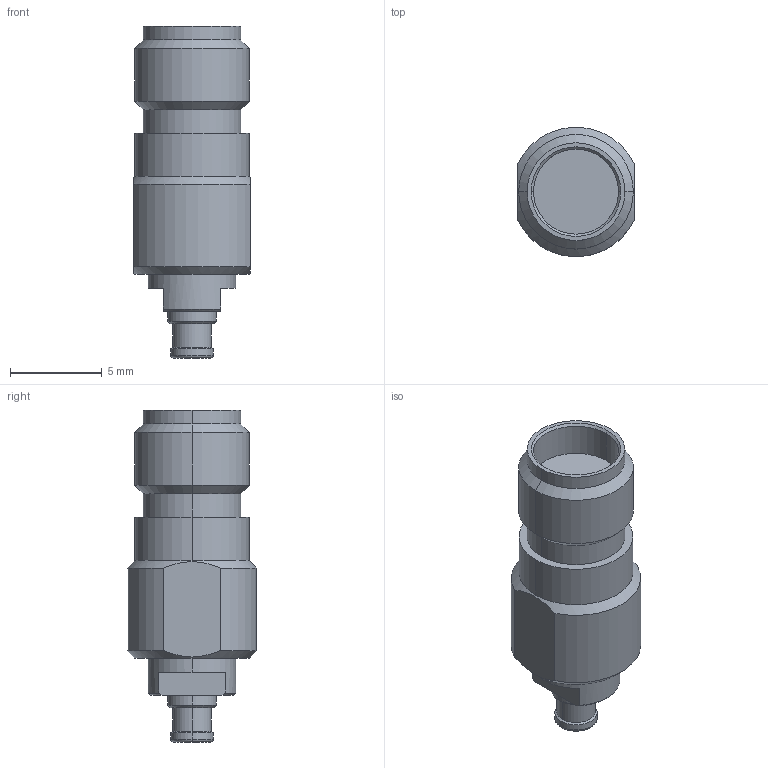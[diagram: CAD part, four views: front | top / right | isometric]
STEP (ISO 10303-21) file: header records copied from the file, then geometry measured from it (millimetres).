
FILE_DESCRIPTION (( 'STEP AP214' ), '1' );
FILE_NAME ('1132-6025.STEP', '2015-10-05T15:21:04', ( '' ), ( '' ), 'SwSTEP 2.0', 'SolidWorks 2015', '' );
FILE_SCHEMA (( 'AUTOMOTIVE_DESIGN' ));
Length unit declared in the file: inch
Products named in the file (1): 1132-6025
Bounding box: 6.35 x 7.04 x 18.11 mm (x, y, z)
Volume: 437.3 mm3; surface area: 417.9 mm2
Topology: 1 solids, 1 shells, 51 faces, 112 edges, 68 vertices
Faces by surface type: cylinder 20, cone 16, plane 13, torus 2
Entity records: 2133 total; most frequent: CARTESIAN_POINT 284, DIRECTION 260, ORIENTED_EDGE 224, EDGE_CURVE 112, AXIS2_PLACEMENT_3D 108, VERTEX_POINT 68, CIRCLE 56, EDGE_LOOP 56
